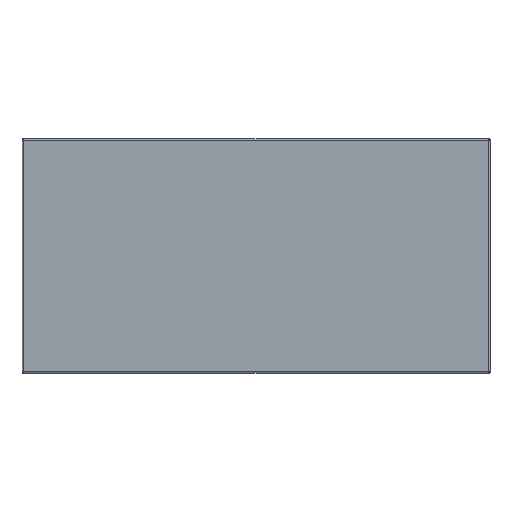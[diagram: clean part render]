
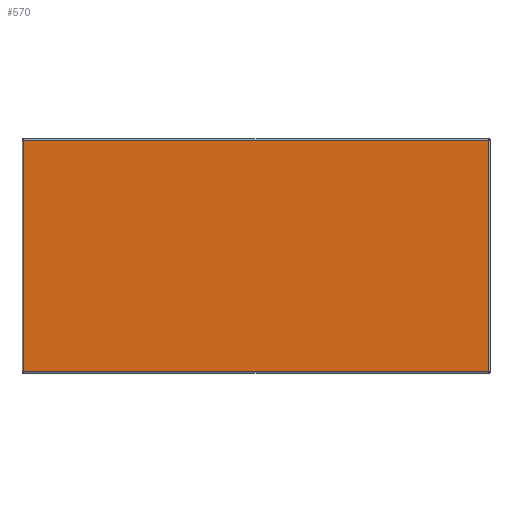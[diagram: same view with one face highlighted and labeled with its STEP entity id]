
A CAD part, top view. The second image highlights one B-rep face of the part: STEP entity #570.
In plain terms, the highlighted planar face has unit normal (0, 0, 1).
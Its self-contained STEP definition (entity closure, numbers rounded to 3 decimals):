
#36=PLANE('',#623);
#82=FACE_OUTER_BOUND('',#120,.T.);
#120=EDGE_LOOP('',(#521,#522,#523,#524));
#150=LINE('',#1297,#210);
#162=LINE('',#1320,#222);
#174=LINE('',#1343,#234);
#186=LINE('',#1366,#246);
#210=VECTOR('',#641,10.);
#222=VECTOR('',#667,10.);
#234=VECTOR('',#693,10.);
#246=VECTOR('',#719,10.);
#258=VERTEX_POINT('',#768);
#264=VERTEX_POINT('',#905);
#270=VERTEX_POINT('',#1042);
#276=VERTEX_POINT('',#1179);
#326=EDGE_CURVE('',#276,#270,#150,.T.);
#338=EDGE_CURVE('',#258,#276,#162,.T.);
#350=EDGE_CURVE('',#270,#264,#174,.T.);
#362=EDGE_CURVE('',#264,#258,#186,.T.);
#521=ORIENTED_EDGE('',*,*,#326,.T.);
#522=ORIENTED_EDGE('',*,*,#350,.T.);
#523=ORIENTED_EDGE('',*,*,#362,.T.);
#524=ORIENTED_EDGE('',*,*,#338,.T.);
#570=ADVANCED_FACE('',(#82),#36,.T.);
#623=AXIS2_PLACEMENT_3D('',#1388,#744,#745);
#641=DIRECTION('',(0.,1.,0.));
#667=DIRECTION('',(1.,0.,0.));
#693=DIRECTION('',(-1.,0.,0.));
#719=DIRECTION('',(0.,-1.,0.));
#744=DIRECTION('center_axis',(0.,0.,1.));
#745=DIRECTION('ref_axis',(1.,0.,0.));
#768=CARTESIAN_POINT('',(-298.43,-148.43,0.));
#905=CARTESIAN_POINT('',(-298.43,148.43,0.));
#1042=CARTESIAN_POINT('',(298.43,148.43,0.));
#1179=CARTESIAN_POINT('',(298.43,-148.43,0.));
#1297=CARTESIAN_POINT('',(298.43,-74.215,0.));
#1320=CARTESIAN_POINT('',(-149.215,-148.43,0.));
#1343=CARTESIAN_POINT('',(149.215,148.43,0.));
#1366=CARTESIAN_POINT('',(-298.43,74.215,0.));
#1388=CARTESIAN_POINT('Origin',(0.,0.,
0.));
